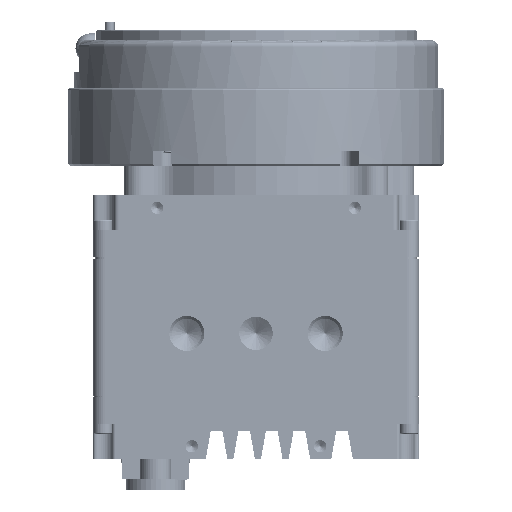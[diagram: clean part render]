
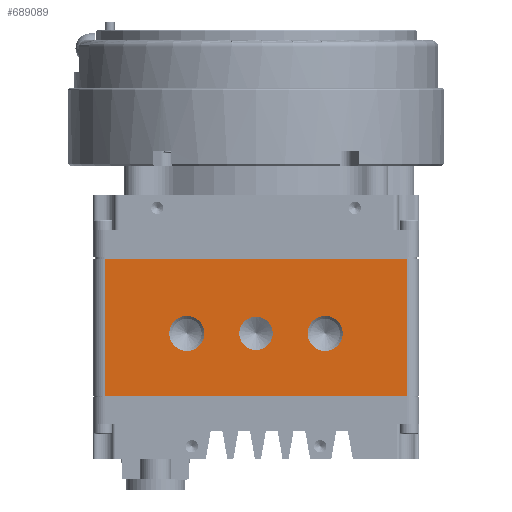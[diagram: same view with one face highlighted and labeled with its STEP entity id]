
A CAD part, front view. The second image highlights one B-rep face of the part: STEP entity #689089.
In plain terms, the highlighted planar face has unit normal (0, -1, 0).
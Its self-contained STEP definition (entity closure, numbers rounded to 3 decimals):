
#466 = CARTESIAN_POINT ( 'NONE',  ( -30.48, -26.67, -0.127 ) ) ;
#7587 = ORIENTED_EDGE ( 'NONE', *, *, #451050, .T. ) ;
#13153 = DIRECTION ( 'NONE',  ( 0., -1., 0. ) ) ;
#14368 = VECTOR ( 'NONE', #167566, 1000. ) ;
#23039 = DIRECTION ( 'NONE',  ( 0., -1., 0. ) ) ;
#29558 = AXIS2_PLACEMENT_3D ( 'NONE', #617347, #556037, #113385 ) ;
#40128 = LINE ( 'NONE', #256665, #687821 ) ;
#42169 = EDGE_CURVE ( 'NONE', #680106, #388309, #562216, .T. ) ;
#43294 = VERTEX_POINT ( 'NONE', #180379 ) ;
#45459 = ORIENTED_EDGE ( 'NONE', *, *, #122643, .F. ) ;
#48462 = CARTESIAN_POINT ( 'NONE',  ( 14., -26.67, -11.69 ) ) ;
#71801 = CIRCLE ( 'NONE', #272681, 3.55 ) ;
#84958 = DIRECTION ( 'NONE',  ( 0., 0., 1. ) ) ;
#91677 = ORIENTED_EDGE ( 'NONE', *, *, #662091, .T. ) ;
#112484 = DIRECTION ( 'NONE',  ( 0., 0., 1. ) ) ;
#113385 = DIRECTION ( 'NONE',  ( 0., 0., -1. ) ) ;
#116815 = VECTOR ( 'NONE', #547569, 1000. ) ;
#122643 = EDGE_CURVE ( 'NONE', #305238, #43294, #603498, .T. ) ;
#138337 = CARTESIAN_POINT ( 'NONE',  ( 14., -26.67, -18.79 ) ) ;
#138960 = CARTESIAN_POINT ( 'NONE',  ( 30.48, -26.67, -27.94 ) ) ;
#153780 = CARTESIAN_POINT ( 'NONE',  ( 30.48, -26.67, -27.813 ) ) ;
#156273 = FACE_OUTER_BOUND ( 'NONE', #648580, .T. ) ;
#160628 = DIRECTION ( 'NONE',  ( 0., 0., 1. ) ) ;
#162033 = CARTESIAN_POINT ( 'NONE',  ( 0., -26.67, -15.24 ) ) ;
#167566 = DIRECTION ( 'NONE',  ( 1., 0., 0. ) ) ;
#171951 = PLANE ( 'NONE',  #29558 ) ;
#178918 = VECTOR ( 'NONE', #520258, 1000. ) ;
#180379 = CARTESIAN_POINT ( 'NONE',  ( 0., -26.67, -18.618 ) ) ;
#199884 = EDGE_CURVE ( 'NONE', #430087, #655834, #288233, .T. ) ;
#205627 = FACE_BOUND ( 'NONE', #669996, .T. ) ;
#208419 = DIRECTION ( 'NONE',  ( 0., -1., 0. ) ) ;
#220209 = ORIENTED_EDGE ( 'NONE', *, *, #635865, .F. ) ;
#240403 = CARTESIAN_POINT ( 'NONE',  ( 14., -26.67, -15.24 ) ) ;
#256665 = CARTESIAN_POINT ( 'NONE',  ( -30.48, -26.67, -27.94 ) ) ;
#268960 = CARTESIAN_POINT ( 'NONE',  ( 14., -26.67, -15.24 ) ) ;
#272681 = AXIS2_PLACEMENT_3D ( 'NONE', #240403, #490993, #112484 ) ;
#286560 = CARTESIAN_POINT ( 'NONE',  ( 30.48, -26.67, -0.127 ) ) ;
#288233 = CIRCLE ( 'NONE', #403264, 3.55 ) ;
#297891 = EDGE_CURVE ( 'NONE', #550720, #425046, #604851, .T. ) ;
#305238 = VERTEX_POINT ( 'NONE', #668662 ) ;
#309810 = DIRECTION ( 'NONE',  ( 0., 0., -1. ) ) ;
#324950 = CIRCLE ( 'NONE', #803149, 3.55 ) ;
#336222 = ORIENTED_EDGE ( 'NONE', *, *, #628312, .F. ) ;
#337001 = LINE ( 'NONE', #138960, #178918 ) ;
#351452 = CARTESIAN_POINT ( 'NONE',  ( 30.48, -26.67, -0.127 ) ) ;
#358289 = CARTESIAN_POINT ( 'NONE',  ( 30.48, -26.67, -27.813 ) ) ;
#388309 = VERTEX_POINT ( 'NONE', #286560 ) ;
#390246 = CARTESIAN_POINT ( 'NONE',  ( -30.48, -26.67, -27.813 ) ) ;
#399539 = CARTESIAN_POINT ( 'NONE',  ( -14., -26.67, -15.24 ) ) ;
#403264 = AXIS2_PLACEMENT_3D ( 'NONE', #477863, #413856, #160628 ) ;
#413856 = DIRECTION ( 'NONE',  ( 0., -1., 0. ) ) ;
#421454 = AXIS2_PLACEMENT_3D ( 'NONE', #268960, #13153, #775782 ) ;
#425014 = EDGE_CURVE ( 'NONE', #43294, #305238, #522848, .T. ) ;
#425046 = VERTEX_POINT ( 'NONE', #153780 ) ;
#427159 = ORIENTED_EDGE ( 'NONE', *, *, #297891, .T. ) ;
#430087 = VERTEX_POINT ( 'NONE', #497644 ) ;
#451050 = EDGE_CURVE ( 'NONE', #680106, #550720, #40128, .T. ) ;
#459161 = DIRECTION ( 'NONE',  ( 0., 0., 1. ) ) ;
#468303 = DIRECTION ( 'NONE',  ( 0., 0., 1. ) ) ;
#474966 = FACE_BOUND ( 'NONE', #617973, .T. ) ;
#477863 = CARTESIAN_POINT ( 'NONE',  ( -14., -26.67, -15.24 ) ) ;
#490993 = DIRECTION ( 'NONE',  ( 0., -1., 0. ) ) ;
#497644 = CARTESIAN_POINT ( 'NONE',  ( -14., -26.67, -18.79 ) ) ;
#520258 = DIRECTION ( 'NONE',  ( 0., 0., 1. ) ) ;
#522848 = CIRCLE ( 'NONE', #799384, 3.378 ) ;
#526326 = EDGE_LOOP ( 'NONE', ( #336222, #220209 ) ) ;
#546206 = CIRCLE ( 'NONE', #421454, 3.55 ) ;
#547569 = DIRECTION ( 'NONE',  ( 1., 0., 0. ) ) ;
#550720 = VERTEX_POINT ( 'NONE', #390246 ) ;
#553259 = ORIENTED_EDGE ( 'NONE', *, *, #747477, .F. ) ;
#556037 = DIRECTION ( 'NONE',  ( 0., 1., 0. ) ) ;
#559826 = ORIENTED_EDGE ( 'NONE', *, *, #425014, .F. ) ;
#562216 = LINE ( 'NONE', #351452, #14368 ) ;
#603498 = CIRCLE ( 'NONE', #788794, 3.378 ) ;
#604851 = LINE ( 'NONE', #358289, #116815 ) ;
#617347 = CARTESIAN_POINT ( 'NONE',  ( 33.02, -26.67, -27.94 ) ) ;
#617973 = EDGE_LOOP ( 'NONE', ( #45459, #559826 ) ) ;
#625088 = VERTEX_POINT ( 'NONE', #138337 ) ;
#628312 = EDGE_CURVE ( 'NONE', #771743, #625088, #71801, .T. ) ;
#635865 = EDGE_CURVE ( 'NONE', #625088, #771743, #546206, .T. ) ;
#641161 = ORIENTED_EDGE ( 'NONE', *, *, #199884, .F. ) ;
#648580 = EDGE_LOOP ( 'NONE', ( #427159, #91677, #774199, #7587 ) ) ;
#655834 = VERTEX_POINT ( 'NONE', #707712 ) ;
#656670 = CARTESIAN_POINT ( 'NONE',  ( 0., -26.67, -15.24 ) ) ;
#662091 = EDGE_CURVE ( 'NONE', #425046, #388309, #337001, .T. ) ;
#668662 = CARTESIAN_POINT ( 'NONE',  ( 0., -26.67, -11.862 ) ) ;
#669996 = EDGE_LOOP ( 'NONE', ( #553259, #641161 ) ) ;
#680106 = VERTEX_POINT ( 'NONE', #466 ) ;
#687821 = VECTOR ( 'NONE', #309810, 1000. ) ;
#689089 = ADVANCED_FACE ( 'NONE', ( #205627, #693777, #474966, #156273 ), #171951, .F. ) ;
#693777 = FACE_BOUND ( 'NONE', #526326, .T. ) ;
#707712 = CARTESIAN_POINT ( 'NONE',  ( -14., -26.67, -11.69 ) ) ;
#719602 = DIRECTION ( 'NONE',  ( 0., -1., 0. ) ) ;
#747477 = EDGE_CURVE ( 'NONE', #655834, #430087, #324950, .T. ) ;
#771743 = VERTEX_POINT ( 'NONE', #48462 ) ;
#774199 = ORIENTED_EDGE ( 'NONE', *, *, #42169, .F. ) ;
#775782 = DIRECTION ( 'NONE',  ( 0., 0., 1. ) ) ;
#788794 = AXIS2_PLACEMENT_3D ( 'NONE', #656670, #208419, #459161 ) ;
#799384 = AXIS2_PLACEMENT_3D ( 'NONE', #162033, #23039, #468303 ) ;
#803149 = AXIS2_PLACEMENT_3D ( 'NONE', #399539, #719602, #84958 ) ;
